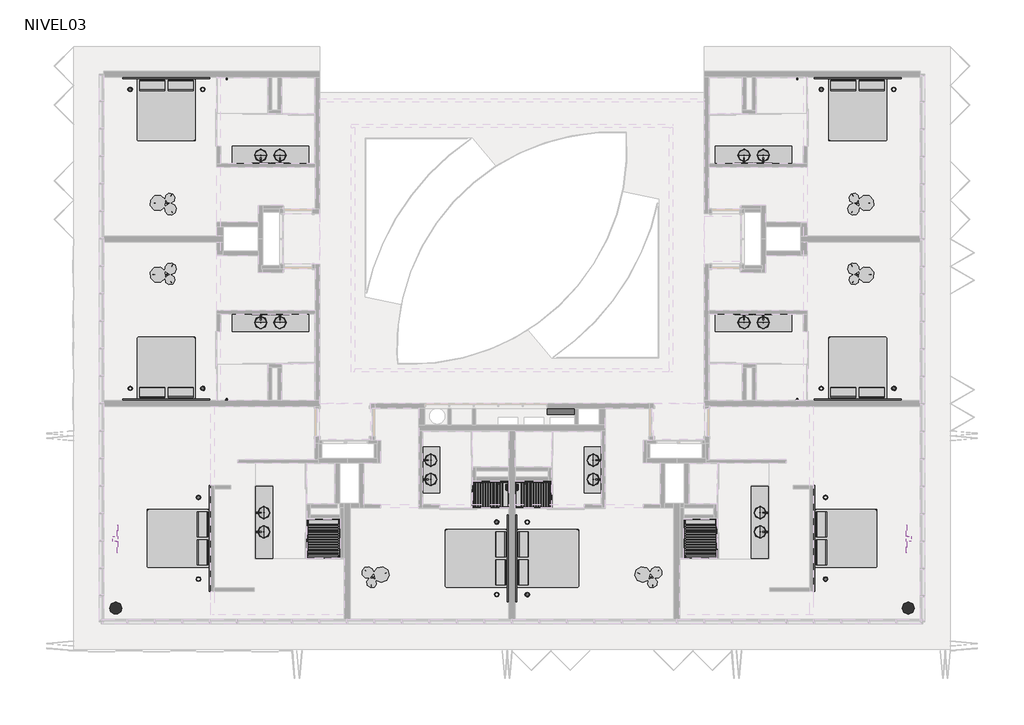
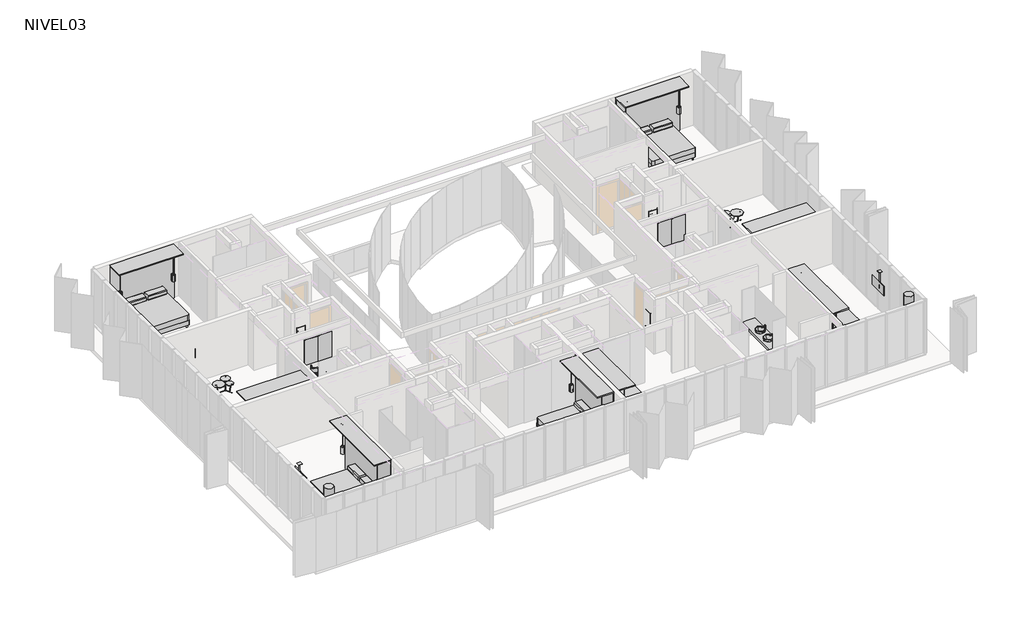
# One storey, part 8 of 8: 63 flow terminals, 16 light fixtures, 14 furniture elements, 10 beams, 10 proxies, 2 columns.
"""IFC4 building model written with IfcOpenShell, lengths in millimetres."""

from ifc_helpers import new_model, si_unit, frame, origin, place, context, project, spatial, polyline, outline, extrude, faceted_brep, transform, mapped, element, save
from components import proxy_f2abb529, proxy_77f56c46, gw40109_410x878x160_c00fe912, gw40109_410x878x160_de583994, m_round_column_d_400_805b0a86, m_round_column_d_400_f1d5f1c1, flow_terminal_0c8ecf02, flow_terminal_b279ac32, flow_terminal_ed776ef0, flow_terminal_606d7820, flow_terminal_b09b52e7, flow_terminal_6561b867, flow_terminal_bd7e037a, flow_terminal_74c15a22, flow_terminal_776c35a8, flow_terminal_72b990a2, flow_terminal_ff75b144, flow_terminal_cd0a1a3c, flow_terminal_6d8cc725, flow_terminal_ec843122, flow_terminal_4fa0bb3f, flow_terminal_b75d90eb, flow_terminal_60x_120_5cc20310, flow_terminal_60x_120_ec79c8a1, bottle_trap_flow_star_s_chrome_1cd5e6a8, bottle_trap_flow_star_s_chrome_f36f63c9, bottle_trap_flow_star_s_chrome_bf7072b5, bottle_trap_flow_star_s_chrome_7d8e5f45, gf_shower_mixer_5467fb75, gf_shower_mixer_4253410c, type_1_5bda6d84, furniture_922720f4, furniture_a362b857, furniture_83d6330f, furniture_52f5ca33, bubble_e683490c, bubble_cea61c99, lighting_fixture_pendant_contech_lighting_ci6_not_a_type_87ea05c9, lighting_fixture_pendant_contech_lighting_ci6_not_a_type_9c6e3dd4

model = new_model("IFC4")

# Units and contexts
model_context = context("Model", 3, world=origin())
ifc_project = project(units=[si_unit("LENGTHUNIT", "METRE", prefix="MILLI")], contexts=[model_context])

# Site, building, storey
site = spatial("IfcSite", under=ifc_project)
building = spatial("IfcBuilding", under=site)
storey = spatial("IfcBuildingStorey", under=building, Name="NIVEL03", Elevation=5220.0)

# Beams
placement = place(None, origin())
element("IfcBeam", 1, ObjectType="H-A- VIGAS RECTANGULARES : V. 40/30", at=placement, inside=storey, context=model_context, shape_type="SweptSolid", body=[
    extrude(outline(polyline([(-19978.5934748, 5233.9139241), (-20378.5934748, 5233.9139241), (-20378.5934748, 10433.9139241), (-19978.5934748, 10433.9139241), (-19978.5934748, 5233.9139241)])), frame((0.0, 0.0, 4900.0), z_axis=(0.0, 0.0, 1.0), x_axis=(1.0, 0.0, 0.0)), (0.0, 0.0, 1.0), 300.0),
])
element("IfcBeam", 2, ObjectType="H-A- VIGAS RECTANGULARES : V. 40/30", at=placement, inside=storey, context=model_context, shape_type="Brep", body=[
    faceted_brep([(-19978.5934748, -7185.2015033, 5200.0), (-20378.5934748, -7185.2015033, 5200.0), (-20378.5934748, -7185.2015033, 4900.0), (-19978.5934748, -7185.2015033, 4900.0), (-19978.5934748, -6785.2015033, 5200.0), (-19978.5934748, -166.0860759, 5200.0), (-20378.5934748, -166.0860759, 5200.0), (-20378.5934748, -166.0860759, 4900.0), (-19978.5934748, -166.0860759, 4900.0), (-19978.5934748, -6785.2015033, 4900.0)], [[[0, 1, 2, 3]], [[1, 0, 4, 5, 6]], [[2, 1, 6, 7]], [[3, 2, 7, 8, 9]], [[0, 3, 9, 8, 5, 4]], [[5, 8, 7, 6]]]),
])
element("IfcBeam", 3, ObjectType="H-A- VIGAS RECTANGULARES : V. 40/30", at=placement, inside=storey, context=model_context, shape_type="SweptSolid", body=[
    extrude(outline(polyline([(-12593.5934748, -6785.2015033), (-12593.5934748, -7185.2015033), (-19978.5934748, -7185.2015033), (-19978.5934748, -6785.2015033), (-12593.5934748, -6785.2015033)])), frame((0.0, 0.0, 4900.0), z_axis=(0.0, 0.0, 1.0), x_axis=(1.0, 0.0, 0.0)), (0.0, 0.0, 1.0), 300.0),
])
element("IfcBeam", 4, ObjectType="H-A- VIGAS RECTANGULARES : V. 40/30", at=placement, inside=storey, context=model_context, shape_type="Brep", body=[
    faceted_brep([(5611.4065252, -7185.2015033, 4900.0), (6011.4065252, -7185.2015033, 4900.0), (6011.4065252, -7185.2015033, 5050.0), (5611.4065252, -7185.2015033, 5050.0), (6011.4065252, -166.0860759, 4900.0), (6011.4065252, -166.0860759, 5050.0), (5611.4065252, -6785.2015033, 4900.0), (5611.4065252, -166.0860759, 4900.0), (5611.4065252, -166.0860759, 5050.0)], [[[0, 1, 2, 3]], [[1, 4, 5, 2]], [[1, 0, 6, 7, 4]], [[7, 6, 0, 3, 8]], [[3, 2, 5, 8]], [[4, 7, 8, 5]]]),
])
element("IfcBeam", 5, ObjectType="H-A- VIGAS RECTANGULARES : V. 40/30", at=placement, inside=storey, context=model_context, shape_type="Brep", body=[
    faceted_brep([(-1773.5934748, -6785.2015033, 5200.0), (-1773.5934748, -7185.2015033, 5200.0), (5611.4065252, -7185.2015033, 5200.0), (5611.4065252, -6785.2015033, 5200.0), (-1773.5934748, -6785.2015033, 4900.0), (-1773.5934748, -6785.2015033, 5050.0), (5611.4065252, -6785.2015033, 4900.0), (2686.4065252, -6785.2015033, 4900.0), (2576.4065252, -6785.2015033, 4900.0), (-1683.5934748, -6785.2015033, 4900.0), (-1773.5934748, -7185.2015033, 4900.0), (5611.4065252, -7185.2015033, 4900.0), (2686.4065252, -7185.2015033, 4900.0), (2576.4065252, -7185.2015033, 4900.0), (-1683.5934748, -7185.2015033, 4900.0), (-1773.5934748, -7185.2015033, 5050.0), (5611.4065252, -7185.2015033, 5050.0)], [[[0, 1, 2, 3]], [[4, 5, 0, 3, 6, 7, 8, 9]], [[10, 4, 9, 8, 7, 6, 11, 12, 13, 14]], [[1, 15, 10, 14, 13, 12, 11, 16, 2]], [[3, 2, 16, 11, 6]], [[1, 0, 5, 4, 10, 15]]]),
])
element("IfcBeam", 6, ObjectType="H-A- VIGAS RECTANGULARES : V. 40/30", at=placement, inside=storey, context=model_context, shape_type="SweptSolid", body=[
    extrude(outline(polyline([(-12593.5934748, -7185.2015033), (-12593.5934748, -6785.2015033), (-7283.5934748, -6785.2015033), (-7283.5934748, -7185.2015033), (-12593.5934748, -7185.2015033)])), frame((0.0, 0.0, 4900.0), z_axis=(0.0, 0.0, 1.0), x_axis=(1.0, 0.0, 0.0)), (0.0, 0.0, 1.0), 300.0),
])
element("IfcBeam", 7, ObjectType="H-A- VIGAS RECTANGULARES : V. 40/30", at=placement, inside=storey, context=model_context, shape_type="SweptSolid", body=[
    extrude(outline(polyline([(-1773.5934748, -7185.2015033), (-7283.5934748, -7185.2015033), (-7283.5934748, -6785.2015033), (-1773.5934748, -6785.2015033), (-1773.5934748, -7185.2015033)])), frame((0.0, 0.0, 4900.0), z_axis=(0.0, 0.0, 1.0), x_axis=(1.0, 0.0, 0.0)), (0.0, 0.0, 1.0), 300.0),
])
element("IfcBeam", 8, ObjectType="H-A- VIGAS RECTANGULARES : V. 40/30", at=placement, inside=storey, context=model_context, shape_type="SweptSolid", body=[
    extrude(outline(polyline([(5611.4065252, 5233.9139241), (5611.4065252, 10433.9139241), (6011.4065252, 10433.9139241), (6011.4065252, 5233.9139241), (5611.4065252, 5233.9139241)])), frame((0.0, 0.0, 4900.0), z_axis=(0.0, 0.0, 1.0), x_axis=(1.0, 0.0, 0.0)), (0.0, 0.0, 1.0), 300.0),
])
element("IfcBeam", 9, ObjectType="H-A- VIGAS RECTANGULARES : V. 40/30", at=placement, inside=storey, context=model_context, shape_type="SweptSolid", body=[
    extrude(outline(polyline([(-19978.5934748, 5233.9139241), (-19978.5934748, -166.0860759), (-20378.5934748, -166.0860759), (-20378.5934748, 5233.9139241), (-19978.5934748, 5233.9139241)])), frame((0.0, 0.0, 4900.0), z_axis=(0.0, 0.0, 1.0), x_axis=(1.0, 0.0, 0.0)), (0.0, 0.0, 1.0), 300.0),
])
element("IfcBeam", 10, ObjectType="H-A- VIGAS RECTANGULARES : V. 40/30", at=placement, inside=storey, context=model_context, shape_type="Brep", body=[
    faceted_brep([(6011.4065252, 5233.9139241, 5200.0), (5611.4065252, 5233.9139241, 5200.0), (5611.4065252, -166.0860759, 5200.0), (6011.4065252, -166.0860759, 5200.0), (6011.4065252, 5233.9139241, 4900.0), (6011.4065252, -166.0860759, 5050.0), (6011.4065252, -166.0860759, 4900.0), (5611.4065252, 5233.9139241, 4900.0), (5611.4065252, -166.0860759, 4900.0), (5611.4065252, -166.0860759, 5050.0)], [[[0, 1, 2, 3]], [[4, 0, 3, 5, 6]], [[7, 4, 6, 8]], [[1, 7, 8, 9, 2]], [[2, 9, 8, 6, 5, 3]], [[1, 0, 4, 7]]]),
])

# Proxies
proxy_shape = proxy_f2abb529(model_context)
element("IfcBuildingElementProxy", 11, Name="A5215 - Bracket, Television, Ceiling Mounted 36 x 6 : A5215 - Bracket, Television, Ceiling Mounted 36\"x 6\"", ObjectType="A5215 - Bracket, Television, Ceiling Mounted 36 x 6 : A5215 - Bracket, Television, Ceiling Mounted 36\"x 6\"", at=placement, inside=storey, context=model_context, shape_type="MappedRepresentation", body=[
    mapped(proxy_shape, transform((6192.4065252, -5081.9984384, 6756.4), x_axis=(0.0, -1.0, 0.0), y_axis=(1.0, 0.0, 0.0), z_axis=(0.0, 0.0, 1.0))),
])
proxy_2_shape = proxy_77f56c46(model_context)
element("IfcBuildingElementProxy", 12, Name="A5215 - Bracket, Television, Ceiling Mounted 36 x 6 : A5215 - Bracket, Television, Ceiling Mounted 36\"x 6\"", ObjectType="A5215 - Bracket, Television, Ceiling Mounted 36 x 6 : A5215 - Bracket, Television, Ceiling Mounted 36\"x 6\"", at=placement, inside=storey, context=model_context, shape_type="MappedRepresentation", body=[
    mapped(proxy_2_shape, transform((-20559.5934748, -5081.9984384, 6756.4), x_axis=(0.0, -1.0, 0.0), y_axis=(1.0, 0.0, 0.0), z_axis=(0.0, 0.0, 1.0))),
])
gw40109_410x878x160_shape = gw40109_410x878x160_c00fe912(model_context)
element("IfcBuildingElementProxy", 13, Name="Building-ContenitoriParete-GEWISS-40CDK-CENTRALINI_IP65_4X : GW40109 - 410x878x160", ObjectType="Building-ContenitoriParete-GEWISS-40CDK-CENTRALINI_IP65_4X : GW40109 - 410x878x160", at=placement, inside=storey, context=model_context, shape_type="MappedRepresentation", body=[
    mapped(gw40109_410x878x160_shape, transform((-2718.5934748, -1918.4487945, 5970.0), x_axis=(0.0, 1.0, 0.0), y_axis=(-1.0, 0.0, 0.0), z_axis=(0.0, 0.0, 1.0))),
])
gw40109_410x878x160_2_shape = gw40109_410x878x160_de583994(model_context)
element("IfcBuildingElementProxy", 14, Name="Building-ContenitoriParete-GEWISS-40CDK-CENTRALINI_IP65_4X : GW40109 - 410x878x160", ObjectType="Building-ContenitoriParete-GEWISS-40CDK-CENTRALINI_IP65_4X : GW40109 - 410x878x160", at=placement, inside=storey, context=model_context, shape_type="MappedRepresentation", body=[
    mapped(gw40109_410x878x160_2_shape, transform((-11648.5934748, -1918.4487945, 5970.0), x_axis=(0.0, 1.0, 0.0), y_axis=(-1.0, 0.0, 0.0), z_axis=(0.0, 0.0, 1.0))),
])
element("IfcBuildingElementProxy", 15, Name="Building-ContenitoriParete-GEWISS-40CDK-CENTRALINI_IP65_4X : GW40109 - 410x878x160", ObjectType="Building-ContenitoriParete-GEWISS-40CDK-CENTRALINI_IP65_4X : GW40109 - 410x878x160", at=placement, inside=storey, context=model_context, shape_type="MappedRepresentation", body=[
    mapped(gw40109_410x878x160_shape, transform((-888.5934748, -1668.4487945, 5970.0), x_axis=(0.0, -1.0, 0.0), y_axis=(1.0, 0.0, 0.0), z_axis=(0.0, 0.0, 1.0))),
])
element("IfcBuildingElementProxy", 16, Name="Building-ContenitoriParete-GEWISS-40CDK-CENTRALINI_IP65_4X : GW40109 - 410x878x160", ObjectType="Building-ContenitoriParete-GEWISS-40CDK-CENTRALINI_IP65_4X : GW40109 - 410x878x160", at=placement, inside=storey, context=model_context, shape_type="MappedRepresentation", body=[
    mapped(gw40109_410x878x160_shape, transform((572.0878844, 6068.9139241, 5970.0), x_axis=(1.0, 0.0, 0.0), y_axis=(0.0, 1.0, 0.0), z_axis=(0.0, 0.0, 1.0))),
])
element("IfcBuildingElementProxy", 17, Name="Building-ContenitoriParete-GEWISS-40CDK-CENTRALINI_IP65_4X : GW40109 - 410x878x160", ObjectType="Building-ContenitoriParete-GEWISS-40CDK-CENTRALINI_IP65_4X : GW40109 - 410x878x160", at=placement, inside=storey, context=model_context, shape_type="MappedRepresentation", body=[
    mapped(gw40109_410x878x160_shape, transform((-14939.2748341, 4198.9139241, 5970.0), x_axis=(-1.0, 0.0, 0.0), y_axis=(0.0, -1.0, 0.0), z_axis=(0.0, 0.0, 1.0))),
])
element("IfcBuildingElementProxy", 18, Name="Building-ContenitoriParete-GEWISS-40CDK-CENTRALINI_IP65_4X : GW40109 - 410x878x160", ObjectType="Building-ContenitoriParete-GEWISS-40CDK-CENTRALINI_IP65_4X : GW40109 - 410x878x160", at=placement, inside=storey, context=model_context, shape_type="MappedRepresentation", body=[
    mapped(gw40109_410x878x160_2_shape, transform((-13478.5934748, -1668.4487945, 5970.0), x_axis=(0.0, -1.0, 0.0), y_axis=(1.0, 0.0, 0.0), z_axis=(0.0, 0.0, 1.0))),
])
element("IfcBuildingElementProxy", 19, Name="Building-ContenitoriParete-GEWISS-40CDK-CENTRALINI_IP65_4X : GW40109 - 410x878x160", ObjectType="Building-ContenitoriParete-GEWISS-40CDK-CENTRALINI_IP65_4X : GW40109 - 410x878x160", at=placement, inside=storey, context=model_context, shape_type="MappedRepresentation", body=[
    mapped(gw40109_410x878x160_2_shape, transform((-14939.2748341, 6068.9139241, 5970.0), x_axis=(-1.0, 0.0, 0.0), y_axis=(0.0, -1.0, 0.0), z_axis=(0.0, 0.0, 1.0))),
])
element("IfcBuildingElementProxy", 20, Name="Building-ContenitoriParete-GEWISS-40CDK-CENTRALINI_IP65_4X : GW40109 - 410x878x160", ObjectType="Building-ContenitoriParete-GEWISS-40CDK-CENTRALINI_IP65_4X : GW40109 - 410x878x160", at=placement, inside=storey, context=model_context, shape_type="MappedRepresentation", body=[
    mapped(gw40109_410x878x160_2_shape, transform((572.0878844, 4198.9139241, 5970.0), x_axis=(1.0, 0.0, 0.0), y_axis=(0.0, 1.0, 0.0), z_axis=(0.0, 0.0, 1.0))),
])

# Columns
m_round_column_d_400_shape = m_round_column_d_400_805b0a86(model_context)
element("IfcColumn", 21, ObjectType="M_Round Column : D-400", at=placement, inside=storey, context=model_context, shape_type="MappedRepresentation", body=[
    mapped(m_round_column_d_400_shape, transform((5797.2643895, -6971.0593676, 0.0), x_axis=(-1.0, 0.0, 0.0), y_axis=(0.0, -1.0, 0.0), z_axis=(0.0, 0.0, 1.0))),
])
m_round_column_d_400_2_shape = m_round_column_d_400_f1d5f1c1(model_context)
element("IfcColumn", 22, ObjectType="M_Round Column : D-400", at=placement, inside=storey, context=model_context, shape_type="MappedRepresentation", body=[
    mapped(m_round_column_d_400_2_shape, transform((-20164.4513392, -6971.0593676, 0.0), x_axis=(1.0, 0.0, 0.0), y_axis=(0.0, 1.0, 0.0), z_axis=(0.0, 0.0, 1.0))),
])

# Flow terminals
flow_terminal_shape = flow_terminal_0c8ecf02(model_context)
element("IfcFlowTerminal", 23, ObjectType="Sanitary_Shower-trays_Cosentino_Kador : Kador_130*125", at=placement, inside=storey, context=model_context, shape_type="MappedRepresentation", body=[
    mapped(flow_terminal_shape, transform((-13363.5934748, -4686.0862189, 5220.0), x_axis=(0.0, -1.0, 0.0), y_axis=(1.0, 0.0, 0.0), z_axis=(0.0, 0.0, 1.0))),
])
flow_terminal_2_shape = flow_terminal_b279ac32(model_context)
element("IfcFlowTerminal", 24, ObjectType="Sanitary_Shower-trays_Cosentino_Kador : Kador_130*125", at=placement, inside=storey, context=model_context, shape_type="MappedRepresentation", body=[
    mapped(flow_terminal_2_shape, transform((-1003.5934748, -4686.0862189, 5220.0), x_axis=(0.0, -1.0, 0.0), y_axis=(1.0, 0.0, 0.0), z_axis=(0.0, 0.0, 1.0))),
])
flow_terminal_3_shape = flow_terminal_ed776ef0(model_context)
element("IfcFlowTerminal", 25, ObjectType="Sanitary_Shower-trays_Cosentino_Kador : Kador_130*125", at=placement, inside=storey, context=model_context, shape_type="MappedRepresentation", body=[
    mapped(flow_terminal_3_shape, transform((-7883.5934748, -3256.0362189, 5220.0), x_axis=(-1.0, 0.0, 0.0), y_axis=(0.0, -1.0, 0.0), z_axis=(0.0, 0.0, 1.0))),
])
flow_terminal_4_shape = flow_terminal_606d7820(model_context)
element("IfcFlowTerminal", 26, ObjectType="Sanitary_Shower-trays_Cosentino_Kador : Kador_130*125", at=placement, inside=storey, context=model_context, shape_type="MappedRepresentation", body=[
    mapped(flow_terminal_4_shape, transform((-6483.5934748, -3256.0362189, 5220.0), x_axis=(1.0, 0.0, 0.0), y_axis=(0.0, 1.0, 0.0), z_axis=(0.0, 0.0, 1.0))),
])
flow_terminal_5_shape = flow_terminal_b09b52e7(model_context)
element("IfcFlowTerminal", 27, ObjectType="CUBIERTA BAÑO : CUBIERTA BAÑO 150CM", at=placement, inside=storey, context=model_context, shape_type="MappedRepresentation", body=[
    mapped(flow_terminal_5_shape, transform((-10123.5934748, -2480.7864739, 5220.0), x_axis=(0.0, 1.0, 0.0), y_axis=(-1.0, 0.0, 0.0), z_axis=(0.0, 0.0, 1.0))),
])
flow_terminal_6_shape = flow_terminal_6561b867(model_context)
element("IfcFlowTerminal", 28, ObjectType="CUBIERTA BAÑO : CUBIERTA BAÑO 250CM", at=placement, inside=storey, context=model_context, shape_type="MappedRepresentation", body=[
    mapped(flow_terminal_6_shape, transform((776.1068516, 7593.9139241, 5200.0), x_axis=(-1.0, 0.0, 0.0), y_axis=(0.0, -1.0, 0.0), z_axis=(0.0, 0.0, 1.0))),
])
element("IfcFlowTerminal", 29, ObjectType="CUBIERTA BAÑO : CUBIERTA BAÑO 250CM", at=placement, inside=storey, context=model_context, shape_type="MappedRepresentation", body=[
    mapped(flow_terminal_6_shape, transform((-15143.2938013, 2673.9139241, 5200.0), x_axis=(1.0, 0.0, 0.0), y_axis=(0.0, 1.0, 0.0), z_axis=(0.0, 0.0, 1.0))),
])
flow_terminal_7_shape = flow_terminal_bd7e037a(model_context)
element("IfcFlowTerminal", 30, ObjectType="GF_TINA-LAVAMANOS : MEZCLADOR MONOMANDO DE LAVABO - MINUSVALIDOS", at=placement, inside=storey, context=model_context, shape_type="MappedRepresentation", body=[
    mapped(flow_terminal_7_shape, transform((-10073.5934748, -2751.0861474, 5970.0), x_axis=(0.0, 1.0, 0.0), y_axis=(-1.0, 0.0, 0.0), z_axis=(0.0, 0.0, 1.0))),
])
element("IfcFlowTerminal", 31, ObjectType="GF_TINA-LAVAMANOS : MEZCLADOR MONOMANDO DE LAVABO - MINUSVALIDOS", at=placement, inside=storey, context=model_context, shape_type="MappedRepresentation", body=[
    mapped(flow_terminal_7_shape, transform((-10073.5934748, -2121.0861474, 5970.0), x_axis=(0.0, 1.0, 0.0), y_axis=(-1.0, 0.0, 0.0), z_axis=(0.0, 0.0, 1.0))),
])
element("IfcFlowTerminal", 32, ObjectType="GF_TINA-LAVAMANOS : MEZCLADOR MONOMANDO DE LAVABO - MINUSVALIDOS", at=placement, inside=storey, context=model_context, shape_type="MappedRepresentation", body=[
    mapped(flow_terminal_7_shape, transform((-15543.5934748, -4471.0860763, 5970.0), x_axis=(0.0, 1.0, 0.0), y_axis=(-1.0, 0.0, 0.0), z_axis=(0.0, 0.0, 1.0))),
])
element("IfcFlowTerminal", 33, ObjectType="GF_TINA-LAVAMANOS : MEZCLADOR MONOMANDO DE LAVABO - MINUSVALIDOS", at=placement, inside=storey, context=model_context, shape_type="MappedRepresentation", body=[
    mapped(flow_terminal_7_shape, transform((-15543.5934748, -3841.0860763, 5970.0), x_axis=(0.0, 1.0, 0.0), y_axis=(-1.0, 0.0, 0.0), z_axis=(0.0, 0.0, 1.0))),
])
element("IfcFlowTerminal", 34, ObjectType="GF_TINA-LAVAMANOS : MEZCLADOR MONOMANDO DE LAVABO - MINUSVALIDOS", at=placement, inside=storey, context=model_context, shape_type="MappedRepresentation", body=[
    mapped(flow_terminal_7_shape, transform((1046.4065252, 7643.9139241, 5950.0), x_axis=(-1.0, 0.0, 0.0), y_axis=(0.0, -1.0, 0.0), z_axis=(0.0, 0.0, 1.0))),
])
element("IfcFlowTerminal", 35, ObjectType="GF_TINA-LAVAMANOS : MEZCLADOR MONOMANDO DE LAVABO - MINUSVALIDOS", at=placement, inside=storey, context=model_context, shape_type="MappedRepresentation", body=[
    mapped(flow_terminal_7_shape, transform((416.4065252, 7643.9139241, 5950.0), x_axis=(-1.0, 0.0, 0.0), y_axis=(0.0, -1.0, 0.0), z_axis=(0.0, 0.0, 1.0))),
])
element("IfcFlowTerminal", 36, ObjectType="GF_TINA-LAVAMANOS : MEZCLADOR MONOMANDO DE LAVABO - MINUSVALIDOS", at=placement, inside=storey, context=model_context, shape_type="MappedRepresentation", body=[
    mapped(flow_terminal_7_shape, transform((-15413.5934748, 2623.9139241, 5950.0), x_axis=(1.0, 0.0, 0.0), y_axis=(0.0, 1.0, 0.0), z_axis=(0.0, 0.0, 1.0))),
])
element("IfcFlowTerminal", 37, ObjectType="GF_TINA-LAVAMANOS : MEZCLADOR MONOMANDO DE LAVABO - MINUSVALIDOS", at=placement, inside=storey, context=model_context, shape_type="MappedRepresentation", body=[
    mapped(flow_terminal_7_shape, transform((-14783.5934748, 2623.9139241, 5950.0), x_axis=(1.0, 0.0, 0.0), y_axis=(0.0, 1.0, 0.0), z_axis=(0.0, 0.0, 1.0))),
])
flow_terminal_8_shape = flow_terminal_74c15a22(model_context)
element("IfcFlowTerminal", 38, ObjectType="GF_TINA-LAVAMANOS : MEZCLADOR MONOMANDO DE LAVABO - MINUSVALIDOS", at=placement, inside=storey, context=model_context, shape_type="MappedRepresentation", body=[
    mapped(flow_terminal_8_shape, transform((-15413.5934748, 7643.9139241, 5950.0), x_axis=(1.0, 0.0, 0.0), y_axis=(0.0, 1.0, 0.0), z_axis=(0.0, 0.0, 1.0))),
])
element("IfcFlowTerminal", 39, ObjectType="GF_TINA-LAVAMANOS : MEZCLADOR MONOMANDO DE LAVABO - MINUSVALIDOS", at=placement, inside=storey, context=model_context, shape_type="MappedRepresentation", body=[
    mapped(flow_terminal_8_shape, transform((-14783.5934748, 7643.9139241, 5950.0), x_axis=(1.0, 0.0, 0.0), y_axis=(0.0, 1.0, 0.0), z_axis=(0.0, 0.0, 1.0))),
])
element("IfcFlowTerminal", 40, ObjectType="GF_TINA-LAVAMANOS : MEZCLADOR MONOMANDO DE LAVABO - MINUSVALIDOS", at=placement, inside=storey, context=model_context, shape_type="MappedRepresentation", body=[
    mapped(flow_terminal_8_shape, transform((-4293.5934748, -2751.0861474, 5970.0), x_axis=(0.0, 1.0, 0.0), y_axis=(-1.0, 0.0, 0.0), z_axis=(0.0, 0.0, 1.0))),
])
element("IfcFlowTerminal", 41, ObjectType="GF_TINA-LAVAMANOS : MEZCLADOR MONOMANDO DE LAVABO - MINUSVALIDOS", at=placement, inside=storey, context=model_context, shape_type="MappedRepresentation", body=[
    mapped(flow_terminal_8_shape, transform((-4293.5934748, -2121.0861474, 5970.0), x_axis=(0.0, 1.0, 0.0), y_axis=(-1.0, 0.0, 0.0), z_axis=(0.0, 0.0, 1.0))),
])
element("IfcFlowTerminal", 42, ObjectType="GF_TINA-LAVAMANOS : MEZCLADOR MONOMANDO DE LAVABO - MINUSVALIDOS", at=placement, inside=storey, context=model_context, shape_type="MappedRepresentation", body=[
    mapped(flow_terminal_8_shape, transform((1176.4065252, -4471.0860763, 5970.0), x_axis=(0.0, 1.0, 0.0), y_axis=(-1.0, 0.0, 0.0), z_axis=(0.0, 0.0, 1.0))),
])
element("IfcFlowTerminal", 43, ObjectType="GF_TINA-LAVAMANOS : MEZCLADOR MONOMANDO DE LAVABO - MINUSVALIDOS", at=placement, inside=storey, context=model_context, shape_type="MappedRepresentation", body=[
    mapped(flow_terminal_8_shape, transform((1176.4065252, -3841.0860763, 5970.0), x_axis=(0.0, 1.0, 0.0), y_axis=(-1.0, 0.0, 0.0), z_axis=(0.0, 0.0, 1.0))),
])
element("IfcFlowTerminal", 44, ObjectType="GF_TINA-LAVAMANOS : MEZCLADOR MONOMANDO DE LAVABO - MINUSVALIDOS", at=placement, inside=storey, context=model_context, shape_type="MappedRepresentation", body=[
    mapped(flow_terminal_8_shape, transform((1046.4065252, 2623.9139241, 5950.0), x_axis=(-1.0, 0.0, 0.0), y_axis=(0.0, -1.0, 0.0), z_axis=(0.0, 0.0, 1.0))),
])
element("IfcFlowTerminal", 45, ObjectType="GF_TINA-LAVAMANOS : MEZCLADOR MONOMANDO DE LAVABO - MINUSVALIDOS", at=placement, inside=storey, context=model_context, shape_type="MappedRepresentation", body=[
    mapped(flow_terminal_8_shape, transform((416.4065252, 2623.9139241, 5950.0), x_axis=(-1.0, 0.0, 0.0), y_axis=(0.0, -1.0, 0.0), z_axis=(0.0, 0.0, 1.0))),
])
flow_terminal_9_shape = flow_terminal_776c35a8(model_context)
element("IfcFlowTerminal", 46, ObjectType="CUBIERTA BAÑO : CUBIERTA BAÑO 238CM", at=placement, inside=storey, context=model_context, shape_type="MappedRepresentation", body=[
    mapped(flow_terminal_9_shape, transform((-15593.5934748, -4200.7864027, 5220.0), x_axis=(0.0, 1.0, 0.0), y_axis=(-1.0, 0.0, 0.0), z_axis=(0.0, 0.0, 1.0))),
])
flow_terminal_10_shape = flow_terminal_72b990a2(model_context)
element("IfcFlowTerminal", 47, ObjectType="jabonera rejilla : jabonera rejilla", at=placement, inside=storey, context=model_context, shape_type="MappedRepresentation", body=[
    mapped(flow_terminal_10_shape, transform((-7293.5934748, -3006.0862189, 6170.0), x_axis=(0.0, -1.0, 0.0), y_axis=(1.0, 0.0, 0.0), z_axis=(0.0, 0.0, 1.0))),
])
flow_terminal_11_shape = flow_terminal_ff75b144(model_context)
element("IfcFlowTerminal", 48, ObjectType="CUBIERTA BAÑO : CUBIERTA BAÑO 150CM", at=placement, inside=storey, context=model_context, shape_type="MappedRepresentation", body=[
    mapped(flow_terminal_11_shape, transform((-4243.5934748, -2480.7864739, 5220.0), x_axis=(0.0, 1.0, 0.0), y_axis=(-1.0, 0.0, 0.0), z_axis=(0.0, 0.0, 1.0))),
])
flow_terminal_12_shape = flow_terminal_cd0a1a3c(model_context)
element("IfcFlowTerminal", 49, ObjectType="CUBIERTA BAÑO : CUBIERTA BAÑO 250CM", at=placement, inside=storey, context=model_context, shape_type="MappedRepresentation", body=[
    mapped(flow_terminal_12_shape, transform((-15143.2938013, 7593.9139241, 5200.0), x_axis=(1.0, 0.0, 0.0), y_axis=(0.0, 1.0, 0.0), z_axis=(0.0, 0.0, 1.0))),
])
element("IfcFlowTerminal", 50, ObjectType="CUBIERTA BAÑO : CUBIERTA BAÑO 250CM", at=placement, inside=storey, context=model_context, shape_type="MappedRepresentation", body=[
    mapped(flow_terminal_12_shape, transform((776.1068516, 2673.9139241, 5200.0), x_axis=(-1.0, 0.0, 0.0), y_axis=(0.0, -1.0, 0.0), z_axis=(0.0, 0.0, 1.0))),
])
flow_terminal_13_shape = flow_terminal_6d8cc725(model_context)
element("IfcFlowTerminal", 51, ObjectType="CUBIERTA BAÑO : CUBIERTA BAÑO 238CM", at=placement, inside=storey, context=model_context, shape_type="MappedRepresentation", body=[
    mapped(flow_terminal_13_shape, transform((1226.4065252, -4200.7864027, 5220.0), x_axis=(0.0, 1.0, 0.0), y_axis=(-1.0, 0.0, 0.0), z_axis=(0.0, 0.0, 1.0))),
])
flow_terminal_14_shape = flow_terminal_ec843122(model_context)
element("IfcFlowTerminal", 52, ObjectType="GrapBar-60cm-Vitra-OtherSeries-320-3010 : SupportRail-Vitra-OtherSeries-320-3010", at=placement, inside=storey, context=model_context, shape_type="MappedRepresentation", body=[
    mapped(flow_terminal_14_shape, transform((-7623.5047394, -2806.0860759, 6580.0), x_axis=(-1.0, 0.0, 0.0), y_axis=(0.0, 0.0, -1.0), z_axis=(0.0, -1.0, 0.0))),
])
flow_terminal_15_shape = flow_terminal_4fa0bb3f(model_context)
element("IfcFlowTerminal", 53, ObjectType="jabonera rejilla : jabonera rejilla", at=placement, inside=storey, context=model_context, shape_type="MappedRepresentation", body=[
    mapped(flow_terminal_15_shape, transform((-7073.5934748, -3006.0862189, 6170.0), x_axis=(0.0, -1.0, 0.0), y_axis=(1.0, 0.0, 0.0), z_axis=(0.0, 0.0, 1.0))),
])
flow_terminal_16_shape = flow_terminal_b75d90eb(model_context)
element("IfcFlowTerminal", 54, ObjectType="GrapBar-60cm-Vitra-OtherSeries-320-3010 : SupportRail-Vitra-OtherSeries-320-3010", at=placement, inside=storey, context=model_context, shape_type="MappedRepresentation", body=[
    mapped(flow_terminal_16_shape, transform((-6743.6822103, -2806.0860759, 6580.0), x_axis=(1.0, 0.0, 0.0), y_axis=(0.0, 0.0, 1.0), z_axis=(0.0, -1.0, 0.0))),
])
flow_terminal_60x_120_shape = flow_terminal_60x_120_5cc20310(model_context)
element("IfcFlowTerminal", 55, ObjectType="ESPEJO RECTANGULAR : 60x 120", at=placement, inside=storey, context=model_context, shape_type="MappedRepresentation", body=[
    mapped(flow_terminal_60x_120_shape, transform((-15413.5934748, 7598.9139241, 5620.0), x_axis=(1.0, 0.0, 0.0), y_axis=(0.0, 1.0, 0.0), z_axis=(0.0, 0.0, 1.0))),
])
element("IfcFlowTerminal", 56, ObjectType="ESPEJO RECTANGULAR : 60x 120", at=placement, inside=storey, context=model_context, shape_type="MappedRepresentation", body=[
    mapped(flow_terminal_60x_120_shape, transform((-14783.5934748, 7598.9139241, 5620.0), x_axis=(1.0, 0.0, 0.0), y_axis=(0.0, 1.0, 0.0), z_axis=(0.0, 0.0, 1.0))),
])
element("IfcFlowTerminal", 57, ObjectType="ESPEJO RECTANGULAR : 60x 120", at=placement, inside=storey, context=model_context, shape_type="MappedRepresentation", body=[
    mapped(flow_terminal_60x_120_shape, transform((1046.4065252, 2668.9139241, 5620.0), x_axis=(-1.0, 0.0, 0.0), y_axis=(0.0, -1.0, 0.0), z_axis=(0.0, 0.0, 1.0))),
])
element("IfcFlowTerminal", 58, ObjectType="ESPEJO RECTANGULAR : 60x 120", at=placement, inside=storey, context=model_context, shape_type="MappedRepresentation", body=[
    mapped(flow_terminal_60x_120_shape, transform((416.4065252, 2668.9139241, 5620.0), x_axis=(-1.0, 0.0, 0.0), y_axis=(0.0, -1.0, 0.0), z_axis=(0.0, 0.0, 1.0))),
])
flow_terminal_60x_120_2_shape = flow_terminal_60x_120_ec79c8a1(model_context)
element("IfcFlowTerminal", 59, ObjectType="ESPEJO RECTANGULAR : 60x 120", at=placement, inside=storey, context=model_context, shape_type="MappedRepresentation", body=[
    mapped(flow_terminal_60x_120_2_shape, transform((1046.4065252, 7598.9139241, 5620.0), x_axis=(-1.0, 0.0, 0.0), y_axis=(0.0, -1.0, 0.0), z_axis=(0.0, 0.0, 1.0))),
])
element("IfcFlowTerminal", 60, ObjectType="ESPEJO RECTANGULAR : 60x 120", at=placement, inside=storey, context=model_context, shape_type="MappedRepresentation", body=[
    mapped(flow_terminal_60x_120_2_shape, transform((416.4065252, 7598.9139241, 5620.0), x_axis=(-1.0, 0.0, 0.0), y_axis=(0.0, -1.0, 0.0), z_axis=(0.0, 0.0, 1.0))),
])
element("IfcFlowTerminal", 61, ObjectType="ESPEJO RECTANGULAR : 60x 120", at=placement, inside=storey, context=model_context, shape_type="MappedRepresentation", body=[
    mapped(flow_terminal_60x_120_2_shape, transform((-15413.5934748, 2668.9139241, 5620.0), x_axis=(1.0, 0.0, 0.0), y_axis=(0.0, 1.0, 0.0), z_axis=(0.0, 0.0, 1.0))),
])
element("IfcFlowTerminal", 62, ObjectType="ESPEJO RECTANGULAR : 60x 120", at=placement, inside=storey, context=model_context, shape_type="MappedRepresentation", body=[
    mapped(flow_terminal_60x_120_2_shape, transform((-14783.5934748, 2668.9139241, 5620.0), x_axis=(1.0, 0.0, 0.0), y_axis=(0.0, 1.0, 0.0), z_axis=(0.0, 0.0, 1.0))),
])
bottle_trap_flow_star_s_chrome_shape = bottle_trap_flow_star_s_chrome_1cd5e6a8(model_context)
element("IfcFlowTerminal", 63, ObjectType="GF_SIFON-VESILUKKO FLOWSTAR S KROMI : Bottle trap Flow Star S chrome", at=placement, inside=storey, context=model_context, shape_type="MappedRepresentation", body=[
    mapped(bottle_trap_flow_star_s_chrome_shape, transform((-9843.5934748, -2121.0861474, 5528.0), x_axis=(1.0, 0.0, 0.0), y_axis=(0.0, 1.0, 0.0), z_axis=(0.0, 0.0, 1.0))),
])
element("IfcFlowTerminal", 64, ObjectType="GF_SIFON-VESILUKKO FLOWSTAR S KROMI : Bottle trap Flow Star S chrome", at=placement, inside=storey, context=model_context, shape_type="MappedRepresentation", body=[
    mapped(bottle_trap_flow_star_s_chrome_shape, transform((-9843.5934748, -2751.0861474, 5528.0), x_axis=(1.0, 0.0, 0.0), y_axis=(0.0, 1.0, 0.0), z_axis=(0.0, 0.0, 1.0))),
])
element("IfcFlowTerminal", 65, ObjectType="GF_SIFON-VESILUKKO FLOWSTAR S KROMI : Bottle trap Flow Star S chrome", at=placement, inside=storey, context=model_context, shape_type="MappedRepresentation", body=[
    mapped(bottle_trap_flow_star_s_chrome_shape, transform((416.4065252, 7873.9139241, 5508.0), x_axis=(0.0, 1.0, 0.0), y_axis=(-1.0, 0.0, 0.0), z_axis=(0.0, 0.0, 1.0))),
])
element("IfcFlowTerminal", 66, ObjectType="GF_SIFON-VESILUKKO FLOWSTAR S KROMI : Bottle trap Flow Star S chrome", at=placement, inside=storey, context=model_context, shape_type="MappedRepresentation", body=[
    mapped(bottle_trap_flow_star_s_chrome_shape, transform((1046.4065252, 7873.9139241, 5508.0), x_axis=(0.0, 1.0, 0.0), y_axis=(-1.0, 0.0, 0.0), z_axis=(0.0, 0.0, 1.0))),
])
element("IfcFlowTerminal", 67, ObjectType="GF_SIFON-VESILUKKO FLOWSTAR S KROMI : Bottle trap Flow Star S chrome", at=placement, inside=storey, context=model_context, shape_type="MappedRepresentation", body=[
    mapped(bottle_trap_flow_star_s_chrome_shape, transform((-14783.5934748, 2393.9139241, 5508.0), x_axis=(0.0, -1.0, 0.0), y_axis=(1.0, 0.0, 0.0), z_axis=(0.0, 0.0, 1.0))),
])
element("IfcFlowTerminal", 68, ObjectType="GF_SIFON-VESILUKKO FLOWSTAR S KROMI : Bottle trap Flow Star S chrome", at=placement, inside=storey, context=model_context, shape_type="MappedRepresentation", body=[
    mapped(bottle_trap_flow_star_s_chrome_shape, transform((-15413.5934748, 2393.9139241, 5508.0), x_axis=(0.0, -1.0, 0.0), y_axis=(1.0, 0.0, 0.0), z_axis=(0.0, 0.0, 1.0))),
])
bottle_trap_flow_star_s_chrome_2_shape = bottle_trap_flow_star_s_chrome_f36f63c9(model_context)
element("IfcFlowTerminal", 69, ObjectType="GF_SIFON-VESILUKKO FLOWSTAR S KROMI : Bottle trap Flow Star S chrome", at=placement, inside=storey, context=model_context, shape_type="MappedRepresentation", body=[
    mapped(bottle_trap_flow_star_s_chrome_2_shape, transform((-14783.5934748, 7873.9139241, 5508.0), x_axis=(0.0, 1.0, 0.0), y_axis=(-1.0, 0.0, 0.0), z_axis=(0.0, 0.0, 1.0))),
])
element("IfcFlowTerminal", 70, ObjectType="GF_SIFON-VESILUKKO FLOWSTAR S KROMI : Bottle trap Flow Star S chrome", at=placement, inside=storey, context=model_context, shape_type="MappedRepresentation", body=[
    mapped(bottle_trap_flow_star_s_chrome_2_shape, transform((-4523.5934748, -2121.0861474, 5528.0), x_axis=(-1.0, 0.0, 0.0), y_axis=(0.0, -1.0, 0.0), z_axis=(0.0, 0.0, 1.0))),
])
element("IfcFlowTerminal", 71, ObjectType="GF_SIFON-VESILUKKO FLOWSTAR S KROMI : Bottle trap Flow Star S chrome", at=placement, inside=storey, context=model_context, shape_type="MappedRepresentation", body=[
    mapped(bottle_trap_flow_star_s_chrome_2_shape, transform((-4523.5934748, -2751.0861474, 5528.0), x_axis=(-1.0, 0.0, 0.0), y_axis=(0.0, -1.0, 0.0), z_axis=(0.0, 0.0, 1.0))),
])
element("IfcFlowTerminal", 72, ObjectType="GF_SIFON-VESILUKKO FLOWSTAR S KROMI : Bottle trap Flow Star S chrome", at=placement, inside=storey, context=model_context, shape_type="MappedRepresentation", body=[
    mapped(bottle_trap_flow_star_s_chrome_2_shape, transform((-15413.5934748, 7873.9139241, 5508.0), x_axis=(0.0, 1.0, 0.0), y_axis=(-1.0, 0.0, 0.0), z_axis=(0.0, 0.0, 1.0))),
])
element("IfcFlowTerminal", 73, ObjectType="GF_SIFON-VESILUKKO FLOWSTAR S KROMI : Bottle trap Flow Star S chrome", at=placement, inside=storey, context=model_context, shape_type="MappedRepresentation", body=[
    mapped(bottle_trap_flow_star_s_chrome_2_shape, transform((416.4065252, 2393.9139241, 5508.0), x_axis=(0.0, -1.0, 0.0), y_axis=(1.0, 0.0, 0.0), z_axis=(0.0, 0.0, 1.0))),
])
element("IfcFlowTerminal", 74, ObjectType="GF_SIFON-VESILUKKO FLOWSTAR S KROMI : Bottle trap Flow Star S chrome", at=placement, inside=storey, context=model_context, shape_type="MappedRepresentation", body=[
    mapped(bottle_trap_flow_star_s_chrome_2_shape, transform((1046.4065252, 2393.9139241, 5508.0), x_axis=(0.0, -1.0, 0.0), y_axis=(1.0, 0.0, 0.0), z_axis=(0.0, 0.0, 1.0))),
])
bottle_trap_flow_star_s_chrome_3_shape = bottle_trap_flow_star_s_chrome_bf7072b5(model_context)
element("IfcFlowTerminal", 75, ObjectType="GF_SIFON-VESILUKKO FLOWSTAR S KROMI : Bottle trap Flow Star S chrome", at=placement, inside=storey, context=model_context, shape_type="MappedRepresentation", body=[
    mapped(bottle_trap_flow_star_s_chrome_3_shape, transform((946.4065252, -3841.0860763, 5528.0), x_axis=(-1.0, 0.0, 0.0), y_axis=(0.0, -1.0, 0.0), z_axis=(0.0, 0.0, 1.0))),
])
element("IfcFlowTerminal", 76, ObjectType="GF_SIFON-VESILUKKO FLOWSTAR S KROMI : Bottle trap Flow Star S chrome", at=placement, inside=storey, context=model_context, shape_type="MappedRepresentation", body=[
    mapped(bottle_trap_flow_star_s_chrome_3_shape, transform((946.4065252, -4471.0860763, 5528.0), x_axis=(-1.0, 0.0, 0.0), y_axis=(0.0, -1.0, 0.0), z_axis=(0.0, 0.0, 1.0))),
])
bottle_trap_flow_star_s_chrome_4_shape = bottle_trap_flow_star_s_chrome_7d8e5f45(model_context)
element("IfcFlowTerminal", 77, ObjectType="GF_SIFON-VESILUKKO FLOWSTAR S KROMI : Bottle trap Flow Star S chrome", at=placement, inside=storey, context=model_context, shape_type="MappedRepresentation", body=[
    mapped(bottle_trap_flow_star_s_chrome_4_shape, transform((-15313.5934748, -3841.0860763, 5528.0), x_axis=(1.0, 0.0, 0.0), y_axis=(0.0, 1.0, 0.0), z_axis=(0.0, 0.0, 1.0))),
])
element("IfcFlowTerminal", 78, ObjectType="GF_SIFON-VESILUKKO FLOWSTAR S KROMI : Bottle trap Flow Star S chrome", at=placement, inside=storey, context=model_context, shape_type="MappedRepresentation", body=[
    mapped(bottle_trap_flow_star_s_chrome_4_shape, transform((-15313.5934748, -4471.0860763, 5528.0), x_axis=(1.0, 0.0, 0.0), y_axis=(0.0, 1.0, 0.0), z_axis=(0.0, 0.0, 1.0))),
])
gf_shower_mixer_shape = gf_shower_mixer_5467fb75(model_context)
element("IfcFlowTerminal", 79, ObjectType="GF_SHOWER MIXER : Monomando ducha SPA", at=placement, inside=storey, context=model_context, shape_type="MappedRepresentation", body=[
    mapped(gf_shower_mixer_shape, transform((-16540.7120291, 10428.9139241, 5220.0), x_axis=(-1.0, 0.0, 0.0), y_axis=(0.0, -1.0, 0.0), z_axis=(0.0, 0.0, 1.0))),
])
element("IfcFlowTerminal", 80, ObjectType="GF_SHOWER MIXER : Monomando ducha SPA", at=placement, inside=storey, context=model_context, shape_type="MappedRepresentation", body=[
    mapped(gf_shower_mixer_shape, transform((-6190.7107046, -2801.0860759, 5220.0), x_axis=(-1.0, 0.0, 0.0), y_axis=(0.0, -1.0, 0.0), z_axis=(0.0, 0.0, 1.0))),
])
element("IfcFlowTerminal", 81, ObjectType="GF_SHOWER MIXER : Monomando ducha SPA", at=placement, inside=storey, context=model_context, shape_type="MappedRepresentation", body=[
    mapped(gf_shower_mixer_shape, transform((2173.5250794, -161.0860759, 5220.0), x_axis=(1.0, 0.0, 0.0), y_axis=(0.0, 1.0, 0.0), z_axis=(0.0, 0.0, 1.0))),
])
gf_shower_mixer_2_shape = gf_shower_mixer_4253410c(model_context)
element("IfcFlowTerminal", 82, ObjectType="GF_SHOWER MIXER : Monomando ducha SPA", at=placement, inside=storey, context=model_context, shape_type="MappedRepresentation", body=[
    mapped(gf_shower_mixer_2_shape, transform((-8176.4762451, -2801.0860759, 5220.0), x_axis=(1.0, 0.0, 0.0), y_axis=(0.0, 1.0, 0.0), z_axis=(0.0, 0.0, 1.0))),
])
element("IfcFlowTerminal", 83, ObjectType="GF_SHOWER MIXER : Monomando ducha SPA", at=placement, inside=storey, context=model_context, shape_type="MappedRepresentation", body=[
    mapped(gf_shower_mixer_2_shape, transform((2173.5250794, 10428.9139241, 5220.0), x_axis=(1.0, 0.0, 0.0), y_axis=(0.0, 1.0, 0.0), z_axis=(0.0, 0.0, 1.0))),
])
element("IfcFlowTerminal", 84, ObjectType="GF_SHOWER MIXER : Monomando ducha SPA", at=placement, inside=storey, context=model_context, shape_type="MappedRepresentation", body=[
    mapped(gf_shower_mixer_2_shape, transform((-16540.7120291, -161.0860759, 5220.0), x_axis=(-1.0, 0.0, 0.0), y_axis=(0.0, -1.0, 0.0), z_axis=(0.0, 0.0, 1.0))),
])
type_1_shape = type_1_5bda6d84(model_context)
element("IfcFlowTerminal", 85, ObjectType="GABINETE-BASADOEN MURO : Type 1", at=placement, inside=storey, context=model_context, shape_type="MappedRepresentation", body=[
    mapped(type_1_shape, transform((-5708.5934748, -341.0860759, 5220.0), x_axis=(1.0, 0.0, 0.0), y_axis=(0.0, 1.0, 0.0), z_axis=(0.0, 0.0, 1.0))),
])

# Furniture
furniture_shape = furniture_922720f4(model_context)
element("IfcFurniture", 86, ObjectType="CAMA HABITACIONES : 180cmx200cmx60cm (dos camas)", at=placement, inside=storey, context=model_context, shape_type="MappedRepresentation", body=[
    mapped(furniture_shape, transform((3706.8114432, -4952.5543879, 5220.0), x_axis=(0.0, 1.0, 0.0), y_axis=(-1.0, 0.0, 0.0), z_axis=(0.0, 0.0, 1.0))),
])
furniture_2_shape = furniture_a362b857(model_context)
element("IfcFurniture", 87, ObjectType="CAMA HABITACIONES : 180cmx200cmx60cm (dos camas) 3", at=placement, inside=storey, context=model_context, shape_type="MappedRepresentation", body=[
    mapped(furniture_2_shape, transform((-6061.6918102, -5607.5746005, 5220.0), x_axis=(0.0, 1.0, 0.0), y_axis=(-1.0, 0.0, 0.0), z_axis=(0.0, 0.0, 1.0))),
])
element("IfcFurniture", 88, ObjectType="CAMA HABITACIONES : 180cmx200cmx60cm (dos camas) 3", at=placement, inside=storey, context=model_context, shape_type="MappedRepresentation", body=[
    mapped(furniture_2_shape, transform((-18775.0819994, 9413.509006, 5220.0), x_axis=(1.0, 0.0, 0.0), y_axis=(0.0, 1.0, 0.0), z_axis=(0.0, 0.0, 1.0))),
])
element("IfcFurniture", 89, ObjectType="CAMA HABITACIONES : 180cmx200cmx60cm (dos camas) 3", at=placement, inside=storey, context=model_context, shape_type="MappedRepresentation", body=[
    mapped(furniture_2_shape, transform((4407.8950497, 854.3188421, 5220.0), x_axis=(-1.0, 0.0, 0.0), y_axis=(0.0, -1.0, 0.0), z_axis=(0.0, 0.0, 1.0))),
])
furniture_3_shape = furniture_83d6330f(model_context)
element("IfcFurniture", 90, ObjectType="CAMA HABITACIONES : 180cmx200cmx60cm (dos camas)", at=placement, inside=storey, context=model_context, shape_type="MappedRepresentation", body=[
    mapped(furniture_3_shape, transform((-18073.9983929, -4952.5543879, 5220.0), x_axis=(0.0, 1.0, 0.0), y_axis=(-1.0, 0.0, 0.0), z_axis=(0.0, 0.0, 1.0))),
])
furniture_4_shape = furniture_52f5ca33(model_context)
element("IfcFurniture", 91, ObjectType="CAMA HABITACIONES : 180cmx200cmx60cm (dos camas) 3", at=placement, inside=storey, context=model_context, shape_type="MappedRepresentation", body=[
    mapped(furniture_4_shape, transform((-8305.4951395, -5607.5746005, 5220.0), x_axis=(0.0, 1.0, 0.0), y_axis=(-1.0, 0.0, 0.0), z_axis=(0.0, 0.0, 1.0))),
])
element("IfcFurniture", 92, ObjectType="CAMA HABITACIONES : 180cmx200cmx60cm (dos camas) 3", at=placement, inside=storey, context=model_context, shape_type="MappedRepresentation", body=[
    mapped(furniture_4_shape, transform((4407.8950497, 9413.509006, 5220.0), x_axis=(-1.0, 0.0, 0.0), y_axis=(0.0, -1.0, 0.0), z_axis=(0.0, 0.0, 1.0))),
])
element("IfcFurniture", 93, ObjectType="CAMA HABITACIONES : 180cmx200cmx60cm (dos camas) 3", at=placement, inside=storey, context=model_context, shape_type="MappedRepresentation", body=[
    mapped(furniture_4_shape, transform((-18775.0819994, 854.3188421, 5220.0), x_axis=(1.0, 0.0, 0.0), y_axis=(0.0, 1.0, 0.0), z_axis=(0.0, 0.0, 1.0))),
])
bubble_shape = bubble_e683490c(model_context)
element("IfcFurniture", 94, ObjectType="Furniture_Tables_Bla-Station_Bubble : Bubble", at=placement, inside=storey, context=model_context, shape_type="MappedRepresentation", body=[
    mapped(bubble_shape, transform((-2734.3349877, -5887.101012, 5220.0), x_axis=(0.9535509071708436, -0.3012319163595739, 0.0), y_axis=(0.3012319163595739, 0.9535509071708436, 0.0), z_axis=(0.0, 0.0, 1.0))),
])
element("IfcFurniture", 95, ObjectType="Furniture_Tables_Bla-Station_Bubble : Bubble", at=placement, inside=storey, context=model_context, shape_type="MappedRepresentation", body=[
    mapped(bubble_shape, transform((4241.4065252, 6273.9139241, 5220.0), x_axis=(-1.0, 0.0, 0.0), y_axis=(0.0, -1.0, 0.0), z_axis=(0.0, 0.0, 1.0))),
])
element("IfcFurniture", 96, ObjectType="Furniture_Tables_Bla-Station_Bubble : Bubble", at=placement, inside=storey, context=model_context, shape_type="MappedRepresentation", body=[
    mapped(bubble_shape, transform((-18608.5934748, 3993.9139241, 5220.0), x_axis=(1.0, 0.0, 0.0), y_axis=(0.0, 1.0, 0.0), z_axis=(0.0, 0.0, 1.0))),
])
bubble_2_shape = bubble_cea61c99(model_context)
element("IfcFurniture", 97, ObjectType="Furniture_Tables_Bla-Station_Bubble : Bubble", at=placement, inside=storey, context=model_context, shape_type="MappedRepresentation", body=[
    mapped(bubble_2_shape, transform((-11632.851962, -5887.101012, 5220.0), x_axis=(-0.9535509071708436, -0.301231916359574, 0.0), y_axis=(0.301231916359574, -0.9535509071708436, 0.0), z_axis=(0.0, 0.0, 1.0))),
])
element("IfcFurniture", 98, ObjectType="Furniture_Tables_Bla-Station_Bubble : Bubble", at=placement, inside=storey, context=model_context, shape_type="MappedRepresentation", body=[
    mapped(bubble_2_shape, transform((-18608.5934748, 6273.9139241, 5220.0), x_axis=(1.0, 0.0, 0.0), y_axis=(0.0, 1.0, 0.0), z_axis=(0.0, 0.0, 1.0))),
])
element("IfcFurniture", 99, ObjectType="Furniture_Tables_Bla-Station_Bubble : Bubble", at=placement, inside=storey, context=model_context, shape_type="MappedRepresentation", body=[
    mapped(bubble_2_shape, transform((4241.4065252, 3993.9139241, 5220.0), x_axis=(-1.0, 0.0, 0.0), y_axis=(0.0, -1.0, 0.0), z_axis=(0.0, 0.0, 1.0))),
])

# Light fixtures
lighting_fixture_pendant_contech_lighting_ci6_not_a_type_shape = lighting_fixture_pendant_contech_lighting_ci6_not_a_type_87ea05c9(model_context)
element("IfcLightFixture", 100, ObjectType="Lighting_Fixture-Pendant-ConTech_Lighting-CI6 : Not A Type - Load Type Catalog", at=placement, inside=storey, context=model_context, shape_type="MappedRepresentation", body=[
    mapped(lighting_fixture_pendant_contech_lighting_ci6_not_a_type_shape, transform((-6682.0967282, -6523.5860759, 7700.0799139), x_axis=(-1.0, 0.0, 0.0), y_axis=(0.0, 1.0, 0.0), z_axis=(0.0, 0.0, -1.0))),
])
element("IfcLightFixture", 101, ObjectType="Lighting_Fixture-Pendant-ConTech_Lighting-CI6 : Not A Type - Load Type Catalog", at=placement, inside=storey, context=model_context, shape_type="MappedRepresentation", body=[
    mapped(lighting_fixture_pendant_contech_lighting_ci6_not_a_type_shape, transform((-7685.0902215, -4148.5860759, 7700.0799139), x_axis=(1.0, 0.0, 0.0), y_axis=(0.0, -1.0, 0.0), z_axis=(0.0, 0.0, -1.0))),
])
element("IfcLightFixture", 102, ObjectType="Lighting_Fixture-Pendant-ConTech_Lighting-CI6 : Not A Type - Load Type Catalog", at=placement, inside=storey, context=model_context, shape_type="MappedRepresentation", body=[
    mapped(lighting_fixture_pendant_contech_lighting_ci6_not_a_type_shape, transform((-19691.0934748, 10033.9139241, 7700.0799139), x_axis=(0.0, 1.0, 0.0), y_axis=(1.0, 0.0, 0.0), z_axis=(0.0, 0.0, -1.0))),
])
element("IfcLightFixture", 103, ObjectType="Lighting_Fixture-Pendant-ConTech_Lighting-CI6 : Not A Type - Load Type Catalog", at=placement, inside=storey, context=model_context, shape_type="MappedRepresentation", body=[
    mapped(lighting_fixture_pendant_contech_lighting_ci6_not_a_type_shape, transform((3086.4065252, -6021.0658633, 7700.0799139), x_axis=(-1.0, 0.0, 0.0), y_axis=(0.0, 1.0, 0.0), z_axis=(0.0, 0.0, -1.0))),
])
element("IfcLightFixture", 104, ObjectType="Lighting_Fixture-Pendant-ConTech_Lighting-CI6 : Not A Type - Load Type Catalog", at=placement, inside=storey, context=model_context, shape_type="MappedRepresentation", body=[
    mapped(lighting_fixture_pendant_contech_lighting_ci6_not_a_type_shape, transform((-17453.5934748, -3341.0658633, 7700.0799139), x_axis=(1.0, 0.0, 0.0), y_axis=(0.0, -1.0, 0.0), z_axis=(0.0, 0.0, -1.0))),
])
element("IfcLightFixture", 105, ObjectType="Lighting_Fixture-Pendant-ConTech_Lighting-CI6 : Not A Type - Load Type Catalog", at=placement, inside=storey, context=model_context, shape_type="MappedRepresentation", body=[
    mapped(lighting_fixture_pendant_contech_lighting_ci6_not_a_type_shape, transform((2948.9065252, 10033.9139241, 7700.0799139), x_axis=(0.0, 1.0, 0.0), y_axis=(1.0, 0.0, 0.0), z_axis=(0.0, 0.0, -1.0))),
])
element("IfcLightFixture", 106, ObjectType="Lighting_Fixture-Pendant-ConTech_Lighting-CI6 : Not A Type - Load Type Catalog", at=placement, inside=storey, context=model_context, shape_type="MappedRepresentation", body=[
    mapped(lighting_fixture_pendant_contech_lighting_ci6_not_a_type_shape, transform((-17316.0934748, 233.9139241, 7700.0799139), x_axis=(0.0, -1.0, 0.0), y_axis=(-1.0, 0.0, 0.0), z_axis=(0.0, 0.0, -1.0))),
])
element("IfcLightFixture", 107, ObjectType="Lighting_Fixture-Pendant-ConTech_Lighting-CI6 : Not A Type - Load Type Catalog", at=placement, inside=storey, context=model_context, shape_type="MappedRepresentation", body=[
    mapped(lighting_fixture_pendant_contech_lighting_ci6_not_a_type_shape, transform((5323.9065252, 233.9139241, 7700.0799139), x_axis=(0.0, -1.0, 0.0), y_axis=(-1.0, 0.0, 0.0), z_axis=(0.0, 0.0, -1.0))),
])
lighting_fixture_pendant_contech_lighting_ci6_not_a_type_2_shape = lighting_fixture_pendant_contech_lighting_ci6_not_a_type_9c6e3dd4(model_context)
element("IfcLightFixture", 108, ObjectType="Lighting_Fixture-Pendant-ConTech_Lighting-CI6 : Not A Type - Load Type Catalog", at=placement, inside=storey, context=model_context, shape_type="MappedRepresentation", body=[
    mapped(lighting_fixture_pendant_contech_lighting_ci6_not_a_type_2_shape, transform((-6682.0967282, -4148.5860759, 7700.0799139), x_axis=(-1.0, 0.0, 0.0), y_axis=(0.0, 1.0, 0.0), z_axis=(0.0, 0.0, -1.0))),
])
element("IfcLightFixture", 109, ObjectType="Lighting_Fixture-Pendant-ConTech_Lighting-CI6 : Not A Type - Load Type Catalog", at=placement, inside=storey, context=model_context, shape_type="MappedRepresentation", body=[
    mapped(lighting_fixture_pendant_contech_lighting_ci6_not_a_type_2_shape, transform((-7685.0902215, -6523.5860759, 7700.0799139), x_axis=(1.0, 0.0, 0.0), y_axis=(0.0, -1.0, 0.0), z_axis=(0.0, 0.0, -1.0))),
])
element("IfcLightFixture", 110, ObjectType="Lighting_Fixture-Pendant-ConTech_Lighting-CI6 : Not A Type - Load Type Catalog", at=placement, inside=storey, context=model_context, shape_type="MappedRepresentation", body=[
    mapped(lighting_fixture_pendant_contech_lighting_ci6_not_a_type_2_shape, transform((-17316.0934748, 10033.9139241, 7700.0799139), x_axis=(0.0, 1.0, 0.0), y_axis=(1.0, 0.0, 0.0), z_axis=(0.0, 0.0, -1.0))),
])
element("IfcLightFixture", 111, ObjectType="Lighting_Fixture-Pendant-ConTech_Lighting-CI6 : Not A Type - Load Type Catalog", at=placement, inside=storey, context=model_context, shape_type="MappedRepresentation", body=[
    mapped(lighting_fixture_pendant_contech_lighting_ci6_not_a_type_2_shape, transform((3086.4065252, -3341.0658633, 7700.0799139), x_axis=(-1.0, 0.0, 0.0), y_axis=(0.0, 1.0, 0.0), z_axis=(0.0, 0.0, -1.0))),
])
element("IfcLightFixture", 112, ObjectType="Lighting_Fixture-Pendant-ConTech_Lighting-CI6 : Not A Type - Load Type Catalog", at=placement, inside=storey, context=model_context, shape_type="MappedRepresentation", body=[
    mapped(lighting_fixture_pendant_contech_lighting_ci6_not_a_type_2_shape, transform((-17453.5934748, -6021.0658633, 7700.0799139), x_axis=(1.0, 0.0, 0.0), y_axis=(0.0, -1.0, 0.0), z_axis=(0.0, 0.0, -1.0))),
])
element("IfcLightFixture", 113, ObjectType="Lighting_Fixture-Pendant-ConTech_Lighting-CI6 : Not A Type - Load Type Catalog", at=placement, inside=storey, context=model_context, shape_type="MappedRepresentation", body=[
    mapped(lighting_fixture_pendant_contech_lighting_ci6_not_a_type_2_shape, transform((5323.9065252, 10033.9139241, 7700.0799139), x_axis=(0.0, 1.0, 0.0), y_axis=(1.0, 0.0, 0.0), z_axis=(0.0, 0.0, -1.0))),
])
element("IfcLightFixture", 114, ObjectType="Lighting_Fixture-Pendant-ConTech_Lighting-CI6 : Not A Type - Load Type Catalog", at=placement, inside=storey, context=model_context, shape_type="MappedRepresentation", body=[
    mapped(lighting_fixture_pendant_contech_lighting_ci6_not_a_type_2_shape, transform((-19691.0934748, 233.9139241, 7700.0799139), x_axis=(0.0, -1.0, 0.0), y_axis=(-1.0, 0.0, 0.0), z_axis=(0.0, 0.0, -1.0))),
])
element("IfcLightFixture", 115, ObjectType="Lighting_Fixture-Pendant-ConTech_Lighting-CI6 : Not A Type - Load Type Catalog", at=placement, inside=storey, context=model_context, shape_type="MappedRepresentation", body=[
    mapped(lighting_fixture_pendant_contech_lighting_ci6_not_a_type_2_shape, transform((2948.9065252, 233.9139241, 7700.0799139), x_axis=(0.0, -1.0, 0.0), y_axis=(-1.0, 0.0, 0.0), z_axis=(0.0, 0.0, -1.0))),
])

save(model, "model.ifc")
